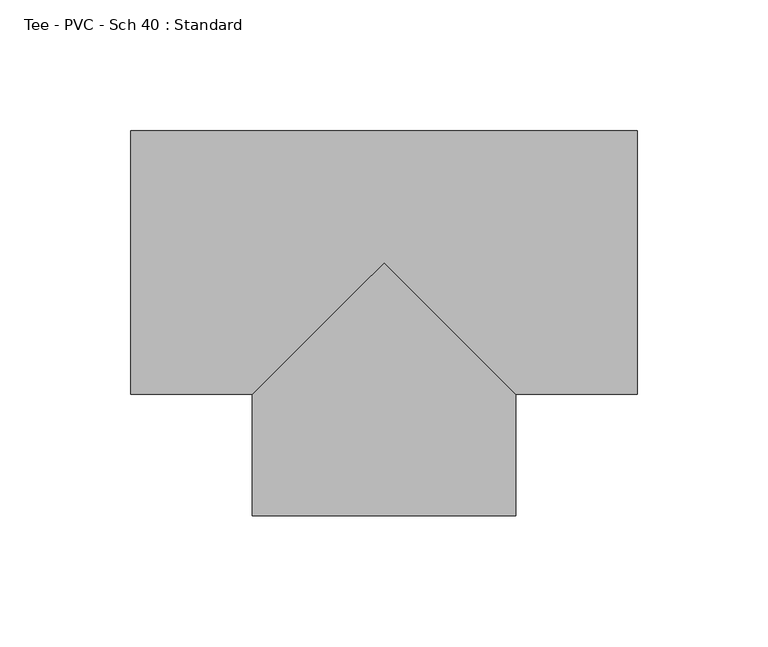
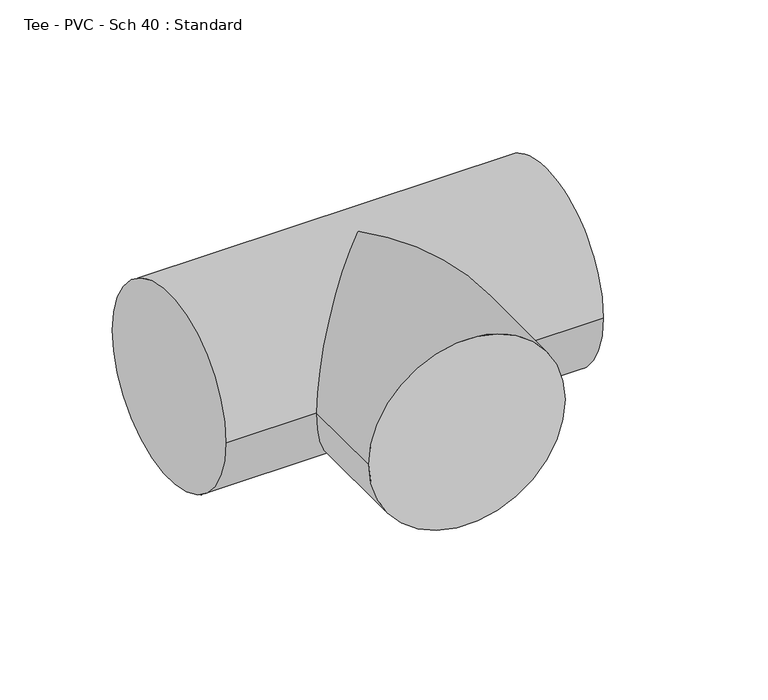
"""IFC4 building model written with IfcOpenShell, lengths in millimetres: pipe fitting geometry, Tee - PVC - Sch 40 : Standard."""

import ifcopenshell
import ifcopenshell.guid

model = None  # the IFC model being written
_history = None  # IfcOwnerHistory: only IFC2X3 demands one
_inside = {}  # id of a spatial element -> (the spatial element, [elements in it])
_under = {}  # id of a project, library or spatial element -> (it, [spatial elements below it])
_declared = {}  # id of a project -> (the project, [libraries it declares])
_typed = {}  # id of a type object -> (the type object, [elements of that type])
_made_of = {}  # id of a material, layer set ... -> (it, [elements and type objects made of it])


def new_model(schema):
    """Start an empty IFC model of exactly this schema.

    Asked for "IFC4X3", IfcOpenShell would pick the latest addendum, in which some entities
    have other attributes; the version numbers below select the first issue.
    IFC2X3 requires an IfcOwnerHistory on every rooted entity: one is made here for all.
    """
    global model, _history
    if schema == "IFC4X3":
        model = ifcopenshell.file(schema_version=(4, 3, 0, 0))
    else:
        model = ifcopenshell.file(schema=schema)
    _inside.clear()
    _under.clear()
    _declared.clear()
    _typed.clear()
    _made_of.clear()
    _history = None
    if model.schema == "IFC2X3":
        org = make("IfcOrganization", Name="unknown")
        user = make(
            "IfcPersonAndOrganization",
            ThePerson=make("IfcPerson", FamilyName="unknown"),
            TheOrganization=org,
        )
        app = make(
            "IfcApplication",
            ApplicationDeveloper=org,
            Version="unknown",
            ApplicationFullName="unknown",
            ApplicationIdentifier="unknown",
        )
        _history = make(
            "IfcOwnerHistory",
            OwningUser=user,
            OwningApplication=app,
            ChangeAction="ADDED",
            CreationDate=0,
        )
    return model


def make(cls, **values):
    """One entity of the class cls with the attributes given. An attribute that is None is left unset."""
    return model.create_entity(
        cls, **{name: value for name, value in values.items() if value is not None}
    )


def rooted(cls, **values):
    """An entity with a GlobalId (a new one), such as an element, a storey or a relation."""
    return make(cls, GlobalId=ifcopenshell.guid.new(), OwnerHistory=_history, **values)


def si_unit(unit_type, name, prefix=None):
    """IfcSIUnit, for example si_unit("LENGTHUNIT", "METRE", prefix="MILLI")."""
    return make("IfcSIUnit", UnitType=unit_type, Prefix=prefix, Name=name)


def assignment(units):
    """IfcUnitAssignment: the units of a project."""
    return None if units is None else make("IfcUnitAssignment", Units=units)


def point(xyz):
    """IfcCartesianPoint."""
    return None if xyz is None else make("IfcCartesianPoint", Coordinates=xyz)


def direction(xyz):
    """IfcDirection."""
    return None if xyz is None else make("IfcDirection", DirectionRatios=xyz)


def frame(location, z_axis=None, x_axis=None):
    """IfcAxis2Placement3D, a coordinate frame: its origin and axes. An axis left out is left unset."""
    return make(
        "IfcAxis2Placement3D",
        Location=point(location),
        Axis=direction(z_axis),
        RefDirection=direction(x_axis),
    )


def origin():
    """The frame at (0, 0, 0) with its axes left unset."""
    return frame((0.0, 0.0, 0.0))


def place(relative_to, where):
    """IfcLocalPlacement: puts the frame where relative to a parent placement (None: the world)."""
    return make(
        "IfcLocalPlacement", PlacementRelTo=relative_to, RelativePlacement=where
    )


def context(
    kind, dimensions, precision=None, world=None, true_north=None, identifier=None
):
    """IfcGeometricRepresentationContext, for example the 3D "Model" context."""
    return make(
        "IfcGeometricRepresentationContext",
        ContextIdentifier=identifier,
        ContextType=kind,
        CoordinateSpaceDimension=dimensions,
        Precision=precision,
        WorldCoordinateSystem=world,
        TrueNorth=true_north,
    )


def project(units=None, contexts=None):
    """IfcProject with its units and contexts."""
    return rooted(
        "IfcProject",
        Name="project",
        RepresentationContexts=contexts,
        UnitsInContext=assignment(units),
    )


def spatial(cls, under=None, at=None, **own):
    """A site, building, storey or space (cls), placed at a placement, below another one or the project."""
    s = rooted(cls, ObjectPlacement=at, **own)
    if under is not None:
        _under.setdefault(under.id(), (under, []))[1].append(s)
    return s


def circle_curve(where, radius):
    """IfcCircle in the frame where."""
    return make("IfcCircle", Position=where, Radius=radius)


def ellipse_curve(where, semi_axis1, semi_axis2):
    """IfcEllipse in the frame where."""
    return make(
        "IfcEllipse", Position=where, SemiAxis1=semi_axis1, SemiAxis2=semi_axis2
    )


def shape(context_of_items, identifier, shape_type, items):
    """IfcShapeRepresentation: the items that make up one representation, for example the "Body"."""
    return make(
        "IfcShapeRepresentation",
        ContextOfItems=context_of_items,
        RepresentationIdentifier=identifier,
        RepresentationType=shape_type,
        Items=items,
    )


def source(mapping_origin, context_of_items, identifier, shape_type, items):
    """IfcRepresentationMap: a shape defined once, which mapped items show again and again."""
    return make(
        "IfcRepresentationMap",
        MappingOrigin=mapping_origin,
        MappedRepresentation=shape(context_of_items, identifier, shape_type, items),
    )


def transform(
    local_origin,
    x_axis=None,
    y_axis=None,
    z_axis=None,
    scale=None,
    scale2=None,
    scale3=None,
    uniform=True,
):
    """IfcCartesianTransformationOperator3D, or its non-uniform kind. x_axis, y_axis, z_axis: its Axis1, 2, 3."""
    if uniform:
        return make(
            "IfcCartesianTransformationOperator3D",
            Axis1=direction(x_axis),
            Axis2=direction(y_axis),
            LocalOrigin=point(local_origin),
            Scale=scale,
            Axis3=direction(z_axis),
        )
    return make(
        "IfcCartesianTransformationOperator3DnonUniform",
        Axis1=direction(x_axis),
        Axis2=direction(y_axis),
        LocalOrigin=point(local_origin),
        Scale=scale,
        Axis3=direction(z_axis),
        Scale2=scale2,
        Scale3=scale3,
    )


def mapped(mapping_source, mapping_target):
    """IfcMappedItem: shows the shape of a source again, moved by a transform."""
    return make(
        "IfcMappedItem", MappingSource=mapping_source, MappingTarget=mapping_target
    )


def made_of(thing, what):
    """Note that an element or type object is made of a material, layer set ...; save() writes the relation."""
    if what is not None:
        _made_of.setdefault(what.id(), (what, []))[1].append(thing)
    return thing


def element(
    cls,
    number,
    at=None,
    inside=None,
    cuts=None,
    type_object=None,
    material=None,
    context=None,
    identifier="Body",
    shape_type=None,
    held_by="IfcProductDefinitionShape",
    body=None,
    shapes=None,
    **own,
):
    """One element of the class cls, such as IfcWall. Its Tag is "e" and its number.

    at: its placement. inside: the storey or other place that contains it. cuts: it is an
    opening in that element (IfcRelVoidsElement). A single representation is given by context,
    identifier, shape_type and body (its items); several are given by shapes. held_by: the class
    of the entity that holds the representations. save() writes the other relations.
    """
    e = rooted(cls, Tag="e%d" % number, ObjectPlacement=at, **own)
    if body is not None:
        shapes = [shape(context, identifier, shape_type, body)]
    if shapes is not None:
        e.Representation = make(held_by, Representations=shapes)
    if inside is not None:
        _inside.setdefault(inside.id(), (inside, []))[1].append(e)
    if cuts is not None:
        rooted(
            "IfcRelVoidsElement", RelatingBuildingElement=cuts, RelatedOpeningElement=e
        )
    if type_object is not None:
        _typed.setdefault(type_object.id(), (type_object, []))[1].append(e)
    return made_of(e, material)


def aggregate(whole, parts):
    """IfcRelAggregates: a whole, such as a stair, and the parts it consists of."""
    return rooted("IfcRelAggregates", RelatingObject=whole, RelatedObjects=parts)


def save(model, path):
    """Write the relations noted so far, then the file.

    IfcRelAggregates (storeys below a building ...), IfcRelContainedInSpatialStructure (elements
    in a storey), IfcRelDefinesByType, IfcRelAssociatesMaterial and IfcRelDeclares: one each for
    every whole, place, type object, material and project.
    """
    for whole, parts in _under.values():
        aggregate(whole, parts)
    for where, things in _inside.values():
        rooted(
            "IfcRelContainedInSpatialStructure",
            RelatedElements=things,
            RelatingStructure=where,
        )
    for kind, things in _typed.values():
        rooted("IfcRelDefinesByType", RelatedObjects=things, RelatingType=kind)
    for what, things in _made_of.values():
        rooted("IfcRelAssociatesMaterial", RelatedObjects=things, RelatingMaterial=what)
    for by, libraries in _declared.values():
        rooted("IfcRelDeclares", RelatingContext=by, RelatedDefinitions=libraries)
    model.write(path)


def plane_surface(at):
    """IfcPlane: the flat surface through the origin of the frame at, square to its z axis."""
    return make("IfcPlane", Position=at)


def cylinder_surface(at, radius):
    """IfcCylindricalSurface: all points at the distance radius from the z axis of the frame at."""
    return make("IfcCylindricalSurface", Position=at, Radius=radius)


def advanced_brep(points, edges, surfaces, faces):
    """IfcAdvancedBrep: a solid bounded by faces that lie on surfaces and meet in shared edges.

    An edge is (start, end): straight between two places in points (the first is 0);
    or (start, end, curve); or (start, end, curve, False) where it runs against its curve.
    A face is (place in surfaces, loops), or (place, loops, False) where it looks against
    its surface's normal. A loop lists edges by number (the first is 1), with a minus sign
    where the edge is run from its end to its start. The first loop is the outer one.
    """
    corners = [point(p) for p in points]
    vertices = [make("IfcVertexPoint", VertexGeometry=c) for c in corners]
    made = []
    for start, end, *more in edges:
        made.append(
            make(
                "IfcEdgeCurve",
                EdgeStart=vertices[start],
                EdgeEnd=vertices[end],
                EdgeGeometry=more[0] if more else make("IfcPolyline", Points=[corners[start], corners[end]]),
                SameSense=more[1] if len(more) > 1 else True,
            )
        )
    hull = []
    for where, loops, *sense in faces:
        bounds = []
        for j, loop in enumerate(loops):
            ring = [make("IfcOrientedEdge", EdgeElement=made[abs(k) - 1], Orientation=k > 0) for k in loop]
            bounds.append(
                make(
                    "IfcFaceOuterBound" if j == 0 else "IfcFaceBound",
                    Bound=make("IfcEdgeLoop", EdgeList=ring),
                    Orientation=True,
                )
            )
        hull.append(make("IfcAdvancedFace", Bounds=bounds, FaceSurface=surfaces[where], SameSense=sense[0] if sense else True))
    return make("IfcAdvancedBrep", Outer=make("IfcClosedShell", CfsFaces=hull))


def tee_pvc_sch_40_standard_9261842d(model_context):
    return source(origin(), model_context, "Body", "AdvancedBrep", [
        advanced_brep(
        [(-96.8502, -50.4063, 0.0), (-96.8502, 50.4063, 0.0), (96.8502, -50.4063, 0.0), (96.8502, 50.4063, 0.0), (-50.4063, -50.4063, 0.0), (0.0, 0.0, 50.4063), (50.4063, -50.4063, 0.0), (0.0, 0.0, -50.4063), (-50.4063, -96.8502, 0.0), (50.4063, -96.8502, 0.0)],
        [
            (0, 1, circle_curve(frame((-96.8502, 0.0, 0.0), z_axis=(-1.0, 0.0, 0.0), x_axis=(0.0, 1.0, 0.0)), 50.4063)),
            (1, 0, circle_curve(frame((-96.8502, 0.0, 0.0), z_axis=(-1.0, 0.0, 0.0), x_axis=(0.0, 1.0, 0.0)), 50.4063)),
            (2, 3, circle_curve(frame((96.8502, 0.0, 0.0), z_axis=(1.0, 0.0, 0.0), x_axis=(0.0, 1.0, 0.0)), 50.4063)),
            (3, 2, circle_curve(frame((96.8502, 0.0, 0.0), z_axis=(1.0, 0.0, 0.0), x_axis=(0.0, 1.0, 0.0)), 50.4063)),
            (0, 4),
            (4, 5, ellipse_curve(frame((0.0, 0.0, 0.0), z_axis=(-0.7071067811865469, 0.7071067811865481, 0.0), x_axis=(-0.707106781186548, -0.7071067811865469, 0.0)), 71.2852731, 50.4063)),
            (5, 6, ellipse_curve(frame((0.0, 0.0, 0.0), z_axis=(0.707106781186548, 0.7071067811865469, 0.0), x_axis=(-0.707106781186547, 0.707106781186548, 0.0)), 71.2852731, 50.4063)),
            (6, 2),
            (3, 1),
            (6, 7, ellipse_curve(frame((0.0, 0.0, 0.0), z_axis=(0.707106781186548, 0.7071067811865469, 0.0), x_axis=(-0.707106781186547, 0.707106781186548, 0.0)), 71.2852731, 50.4063)),
            (7, 4, ellipse_curve(frame((0.0, 0.0, 0.0), z_axis=(-0.7071067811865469, 0.7071067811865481, 0.0), x_axis=(-0.707106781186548, -0.7071067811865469, 0.0)), 71.2852731, 50.4063)),
            (8, 9, circle_curve(frame((0.0, -96.8502, 0.0), z_axis=(0.0, -1.0, 0.0), x_axis=(1.0, 0.0, 0.0)), 50.4063)),
            (9, 8, circle_curve(frame((0.0, -96.8502, 0.0), z_axis=(0.0, -1.0, 0.0), x_axis=(1.0, 0.0, 0.0)), 50.4063)),
            (9, 6),
            (4, 8),
        ],
        [
            plane_surface(frame((-96.8502, 0.0, 0.0), z_axis=(-1.0, 0.0, 0.0), x_axis=(0.0, 0.0, 1.0))),
            plane_surface(frame((96.8502, 0.0, 0.0), z_axis=(1.0, 0.0, 0.0), x_axis=(0.0, 0.0, 1.0))),
            cylinder_surface(frame((-96.8502, 0.0, 0.0), z_axis=(-1.0, 0.0, 0.0), x_axis=(0.0, 1.0, 0.0)), 50.4063),
            plane_surface(frame((0.0, -96.8502, 0.0), z_axis=(0.0, -1.0, 0.0), x_axis=(0.0, 0.0, 1.0))),
            cylinder_surface(frame((0.0, 0.0, 0.0), z_axis=(0.0, 1.0, 0.0), x_axis=(1.0, 0.0, 0.0)), 50.4063),
        ],
        [
            (0, [[1, 2]]),
            (1, [[3, 4]]),
            (2, [[-1, 5, 6, 7, 8, -4, 9]]),
            (2, [[-2, -9, -3, -8, 10, 11, -5]]),
            (3, [[12, 13]]),
            (4, [[-13, 14, -7, -6, 15]]),
            (4, [[-12, -15, -11, -10, -14]]),
        ],
    ),
    ])


if __name__ == "__main__":
    model = new_model("IFC4")
    model_context = context("Model", 3, world=origin())
    ifc_project = project(units=[si_unit("LENGTHUNIT", "METRE", prefix="MILLI")], contexts=[model_context])
    site = spatial("IfcSite", under=ifc_project)
    building = spatial("IfcBuilding", under=site)
    placement = place(None, origin())
    tee_pvc_sch_40_standard_shape = tee_pvc_sch_40_standard_9261842d(model_context)
    element("IfcPipeFitting", 1, ObjectType="Tee - PVC - Sch 40 : Standard", at=placement, inside=building, context=model_context, shape_type="MappedRepresentation", body=[
        mapped(tee_pvc_sch_40_standard_shape, transform((0.0, 0.0, 0.0), x_axis=(1.0, 0.0, 0.0), y_axis=(0.0, 1.0, 0.0), z_axis=(0.0, 0.0, 1.0))),
    ])
    save(model, "model.ifc")
